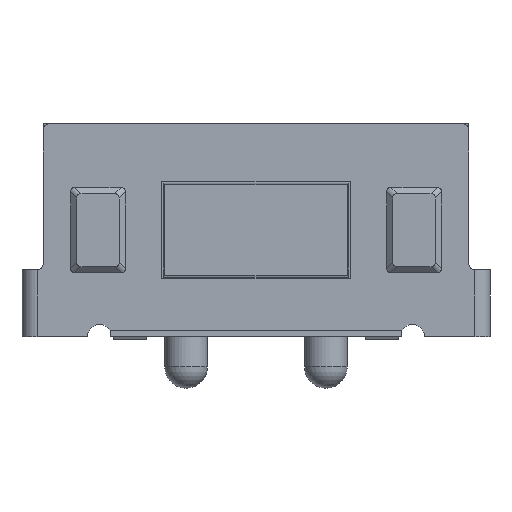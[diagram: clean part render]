
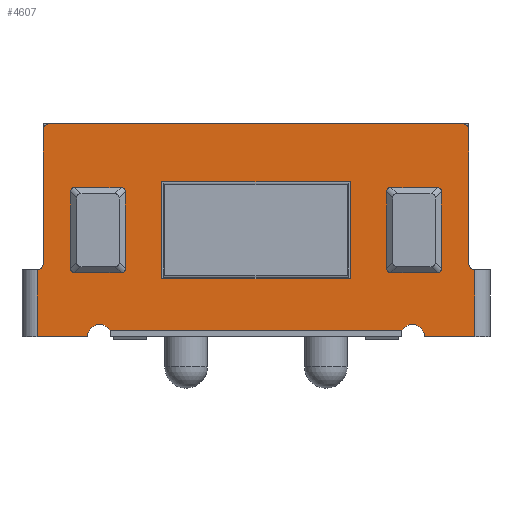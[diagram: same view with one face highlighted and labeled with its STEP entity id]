
A CAD part, front view. The second image highlights one B-rep face of the part: STEP entity #4607.
In plain terms, the highlighted planar face has unit normal (0, -1, 0).
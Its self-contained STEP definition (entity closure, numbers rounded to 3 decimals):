
#3856=DIRECTION('',(0.,0.,-1.));
#3857=VECTOR('',#3856,1.6);
#3858=CARTESIAN_POINT('',(1.55,-0.2,0.8));
#3859=LINE('',#3858,#3857);
#3860=DIRECTION('',(1.,0.,0.));
#3861=VECTOR('',#3860,3.1);
#3862=CARTESIAN_POINT('',(-1.55,-0.2,0.8));
#3863=LINE('',#3862,#3861);
#3864=DIRECTION('',(0.,0.,1.));
#3865=VECTOR('',#3864,1.6);
#3866=CARTESIAN_POINT('',(-1.55,-0.2,-0.8));
#3867=LINE('',#3866,#3865);
#3868=DIRECTION('',(-1.,0.,0.));
#3869=VECTOR('',#3868,3.1);
#3870=CARTESIAN_POINT('',(1.55,-0.2,-0.8));
#3871=LINE('',#3870,#3869);
#3872=DIRECTION('',(0.,0.,-1.));
#3873=VECTOR('',#3872,1.);
#3874=CARTESIAN_POINT('',(-2.35,-0.2,0.5));
#3875=LINE('',#3874,#3873);
#3876=DIRECTION('',(1.,0.,0.));
#3877=VECTOR('',#3876,0.5);
#3878=CARTESIAN_POINT('',(-2.85,-0.2,0.5));
#3879=LINE('',#3878,#3877);
#3880=DIRECTION('',(0.,0.,1.));
#3881=VECTOR('',#3880,1.);
#3882=CARTESIAN_POINT('',(-2.85,-0.2,-0.5));
#3883=LINE('',#3882,#3881);
#3884=DIRECTION('',(-1.,0.,0.));
#3885=VECTOR('',#3884,0.5);
#3886=CARTESIAN_POINT('',(-2.35,-0.2,-0.5));
#3887=LINE('',#3886,#3885);
#3888=DIRECTION('',(1.,0.,0.));
#3889=VECTOR('',#3888,0.5);
#3890=CARTESIAN_POINT('',(2.35,-0.2,0.5));
#3891=LINE('',#3890,#3889);
#3892=DIRECTION('',(0.,0.,1.));
#3893=VECTOR('',#3892,1.);
#3894=CARTESIAN_POINT('',(2.35,-0.2,-0.5));
#3895=LINE('',#3894,#3893);
#3896=DIRECTION('',(-1.,0.,0.));
#3897=VECTOR('',#3896,0.5);
#3898=CARTESIAN_POINT('',(2.85,-0.2,-0.5));
#3899=LINE('',#3898,#3897);
#3900=DIRECTION('',(0.,0.,-1.));
#3901=VECTOR('',#3900,1.);
#3902=CARTESIAN_POINT('',(2.85,-0.2,0.5));
#3903=LINE('',#3902,#3901);
#3904=DIRECTION('',(0.,0.,-1.));
#3905=VECTOR('',#3904,2.2);
#3906=CARTESIAN_POINT('',(-3.5,-0.2,1.65));
#3907=LINE('',#3906,#3905);
#3908=CARTESIAN_POINT('',(-3.4,-0.2,1.65));
#3909=DIRECTION('',(0.,-1.,0.));
#3910=DIRECTION('',(0.,0.,1.));
#3911=AXIS2_PLACEMENT_3D('',#3908,#3909,#3910);
#3913=DIRECTION('',(-1.,0.,0.));
#3914=VECTOR('',#3913,6.8);
#3915=CARTESIAN_POINT('',(3.4,-0.2,1.75));
#3916=LINE('',#3915,#3914);
#3917=CARTESIAN_POINT('',(3.4,-0.2,1.65));
#3918=DIRECTION('',(0.,-1.,0.));
#3919=DIRECTION('',(1.,0.,0.));
#3920=AXIS2_PLACEMENT_3D('',#3917,#3918,#3919);
#3922=DIRECTION('',(0.,0.,1.));
#3923=VECTOR('',#3922,2.2);
#3924=CARTESIAN_POINT('',(3.5,-0.2,-0.55));
#3925=LINE('',#3924,#3923);
#3926=CARTESIAN_POINT('',(2.573,-0.2,-1.75));
#3927=DIRECTION('',(0.,-1.,0.));
#3928=DIRECTION('',(1.,0.,0.));
#3929=AXIS2_PLACEMENT_3D('',#3926,#3927,#3928);
#3931=DIRECTION('',(1.,0.,0.));
#3932=VECTOR('',#3931,4.8);
#3933=CARTESIAN_POINT('',(-2.4,-0.2,-1.65));
#3934=LINE('',#3933,#3932);
#3935=CARTESIAN_POINT('',(-2.573,-0.2,-1.75));
#3936=DIRECTION('',(0.,-1.,0.));
#3937=DIRECTION('',(0.866,0.,0.5));
#3938=AXIS2_PLACEMENT_3D('',#3935,#3936,#3937);
#3977=DIRECTION('',(0.,0.,1.));
#3978=VECTOR('',#3977,1.1);
#3979=CARTESIAN_POINT('',(-3.6,-0.2,-1.75));
#3980=LINE('',#3979,#3978);
#3998=CARTESIAN_POINT('',(-3.6,-0.2,-0.55));
#3999=DIRECTION('',(0.,1.,0.));
#4000=DIRECTION('',(1.,0.,0.));
#4001=AXIS2_PLACEMENT_3D('',#3998,#3999,#4000);
#4032=CARTESIAN_POINT('',(3.6,-0.2,-0.55));
#4033=DIRECTION('',(0.,1.,0.));
#4034=DIRECTION('',(0.,0.,-1.));
#4035=AXIS2_PLACEMENT_3D('',#4032,#4033,#4034);
#4082=DIRECTION('',(0.,0.,-1.));
#4083=VECTOR('',#4082,1.1);
#4084=CARTESIAN_POINT('',(3.6,-0.2,-0.65));
#4085=LINE('',#4084,#4083);
#4154=DIRECTION('',(1.,0.,0.));
#4155=VECTOR('',#4154,0.827);
#4156=CARTESIAN_POINT('',(2.773,-0.2,-1.75));
#4157=LINE('',#4156,#4155);
#4170=DIRECTION('',(1.,0.,0.));
#4171=VECTOR('',#4170,0.827);
#4172=CARTESIAN_POINT('',(-3.6,-0.2,-1.75));
#4173=LINE('',#4172,#4171);
#4296=CARTESIAN_POINT('',(1.55,-0.2,0.8));
#4297=CARTESIAN_POINT('',(1.55,-0.2,-0.8));
#4298=VERTEX_POINT('',#4296);
#4299=VERTEX_POINT('',#4297);
#4300=CARTESIAN_POINT('',(-1.55,-0.2,-0.8));
#4301=VERTEX_POINT('',#4300);
#4302=CARTESIAN_POINT('',(-1.55,-0.2,0.8));
#4303=VERTEX_POINT('',#4302);
#4304=CARTESIAN_POINT('',(-2.35,-0.2,0.5));
#4305=CARTESIAN_POINT('',(-2.35,-0.2,-0.5));
#4306=VERTEX_POINT('',#4304);
#4307=VERTEX_POINT('',#4305);
#4308=CARTESIAN_POINT('',(-2.85,-0.2,-0.5));
#4309=VERTEX_POINT('',#4308);
#4310=CARTESIAN_POINT('',(-2.85,-0.2,0.5));
#4311=VERTEX_POINT('',#4310);
#4312=CARTESIAN_POINT('',(2.35,-0.2,0.5));
#4313=CARTESIAN_POINT('',(2.85,-0.2,0.5));
#4314=VERTEX_POINT('',#4312);
#4315=VERTEX_POINT('',#4313);
#4316=CARTESIAN_POINT('',(2.85,-0.2,-0.5));
#4317=VERTEX_POINT('',#4316);
#4318=CARTESIAN_POINT('',(2.35,-0.2,-0.5));
#4319=VERTEX_POINT('',#4318);
#4324=CARTESIAN_POINT('',(-3.6,-0.2,-1.75));
#4325=VERTEX_POINT('',#4324);
#4338=CARTESIAN_POINT('',(3.6,-0.2,-1.75));
#4339=VERTEX_POINT('',#4338);
#4348=CARTESIAN_POINT('',(-3.4,-0.2,1.75));
#4349=VERTEX_POINT('',#4348);
#4350=CARTESIAN_POINT('',(-3.5,-0.2,1.65));
#4351=VERTEX_POINT('',#4350);
#4356=CARTESIAN_POINT('',(3.5,-0.2,1.65));
#4357=VERTEX_POINT('',#4356);
#4358=CARTESIAN_POINT('',(3.4,-0.2,1.75));
#4359=VERTEX_POINT('',#4358);
#4364=CARTESIAN_POINT('',(2.773,-0.2,-1.75));
#4365=VERTEX_POINT('',#4364);
#4366=CARTESIAN_POINT('',(-2.773,-0.2,-1.75));
#4367=VERTEX_POINT('',#4366);
#4372=CARTESIAN_POINT('',(-2.4,-0.2,-1.65));
#4373=VERTEX_POINT('',#4372);
#4374=CARTESIAN_POINT('',(2.4,-0.2,-1.65));
#4375=VERTEX_POINT('',#4374);
#4376=CARTESIAN_POINT('',(3.6,-0.2,-0.65));
#4378=VERTEX_POINT('',#4376);
#4380=CARTESIAN_POINT('',(3.5,-0.2,-0.55));
#4382=VERTEX_POINT('',#4380);
#4384=CARTESIAN_POINT('',(-3.5,-0.2,-0.55));
#4386=VERTEX_POINT('',#4384);
#4388=CARTESIAN_POINT('',(-3.6,-0.2,-0.65));
#4390=VERTEX_POINT('',#4388);
#4546=CARTESIAN_POINT('',(0.,-0.2,0.));
#4547=DIRECTION('',(0.,-1.,0.));
#4548=DIRECTION('',(1.,0.,0.));
#4549=AXIS2_PLACEMENT_3D('',#4546,#4547,#4548);
#4550=PLANE('',#4549);
#4552=ORIENTED_EDGE('',*,*,#4551,.T.);
#4554=ORIENTED_EDGE('',*,*,#4553,.F.);
#4556=ORIENTED_EDGE('',*,*,#4555,.F.);
#4558=ORIENTED_EDGE('',*,*,#4557,.F.);
#4560=ORIENTED_EDGE('',*,*,#4559,.F.);
#4562=ORIENTED_EDGE('',*,*,#4561,.F.);
#4564=ORIENTED_EDGE('',*,*,#4563,.F.);
#4566=ORIENTED_EDGE('',*,*,#4565,.F.);
#4568=ORIENTED_EDGE('',*,*,#4567,.T.);
#4570=ORIENTED_EDGE('',*,*,#4569,.F.);
#4572=ORIENTED_EDGE('',*,*,#4571,.T.);
#4574=ORIENTED_EDGE('',*,*,#4573,.F.);
#4576=ORIENTED_EDGE('',*,*,#4575,.T.);
#4578=ORIENTED_EDGE('',*,*,#4577,.F.);
#4579=EDGE_LOOP('',(#4552,#4554,#4556,#4558,#4560,#4562,#4564,#4566,#4568,#4570,
#4572,#4574,#4576,#4578));
#4580=FACE_OUTER_BOUND('',#4579,.F.);
#4582=ORIENTED_EDGE('',*,*,#4581,.F.);
#4584=ORIENTED_EDGE('',*,*,#4583,.F.);
#4586=ORIENTED_EDGE('',*,*,#4585,.F.);
#4588=ORIENTED_EDGE('',*,*,#4587,.F.);
#4589=EDGE_LOOP('',(#4582,#4584,#4586,#4588));
#4590=FACE_BOUND('',#4589,.F.);
#4592=ORIENTED_EDGE('',*,*,#4591,.F.);
#4594=ORIENTED_EDGE('',*,*,#4593,.F.);
#4596=ORIENTED_EDGE('',*,*,#4595,.F.);
#4598=ORIENTED_EDGE('',*,*,#4597,.F.);
#4599=EDGE_LOOP('',(#4592,#4594,#4596,#4598));
#4600=FACE_BOUND('',#4599,.F.);
#4601=ORIENTED_EDGE('',*,*,#4498,.F.);
#4602=ORIENTED_EDGE('',*,*,#4513,.F.);
#4603=ORIENTED_EDGE('',*,*,#4527,.F.);
#4604=ORIENTED_EDGE('',*,*,#4540,.F.);
#4605=EDGE_LOOP('',(#4601,#4602,#4603,#4604));
#4606=FACE_BOUND('',#4605,.F.);
#3912=CIRCLE('',#3911,0.1);
#3921=CIRCLE('',#3920,0.1);
#3930=CIRCLE('',#3929,0.2);
#3939=CIRCLE('',#3938,0.2);
#4002=CIRCLE('',#4001,0.1);
#4036=CIRCLE('',#4035,0.1);
#4498=EDGE_CURVE('',#4298,#4299,#3859,.T.);
#4513=EDGE_CURVE('',#4303,#4298,#3863,.T.);
#4527=EDGE_CURVE('',#4301,#4303,#3867,.T.);
#4540=EDGE_CURVE('',#4299,#4301,#3871,.T.);
#4551=EDGE_CURVE('',#4325,#4390,#3980,.T.);
#4553=EDGE_CURVE('',#4386,#4390,#4002,.T.);
#4555=EDGE_CURVE('',#4351,#4386,#3907,.T.);
#4557=EDGE_CURVE('',#4349,#4351,#3912,.T.);
#4559=EDGE_CURVE('',#4359,#4349,#3916,.T.);
#4561=EDGE_CURVE('',#4357,#4359,#3921,.T.);
#4563=EDGE_CURVE('',#4382,#4357,#3925,.T.);
#4565=EDGE_CURVE('',#4378,#4382,#4036,.T.);
#4567=EDGE_CURVE('',#4378,#4339,#4085,.T.);
#4569=EDGE_CURVE('',#4365,#4339,#4157,.T.);
#4571=EDGE_CURVE('',#4365,#4375,#3930,.T.);
#4573=EDGE_CURVE('',#4373,#4375,#3934,.T.);
#4575=EDGE_CURVE('',#4373,#4367,#3939,.T.);
#4577=EDGE_CURVE('',#4325,#4367,#4173,.T.);
#4581=EDGE_CURVE('',#4306,#4307,#3875,.T.);
#4583=EDGE_CURVE('',#4311,#4306,#3879,.T.);
#4585=EDGE_CURVE('',#4309,#4311,#3883,.T.);
#4587=EDGE_CURVE('',#4307,#4309,#3887,.T.);
#4591=EDGE_CURVE('',#4314,#4315,#3891,.T.);
#4593=EDGE_CURVE('',#4319,#4314,#3895,.T.);
#4595=EDGE_CURVE('',#4317,#4319,#3899,.T.);
#4597=EDGE_CURVE('',#4315,#4317,#3903,.T.);
#4607=ADVANCED_FACE('',(#4580,#4590,#4600,#4606),#4550,.T.);
